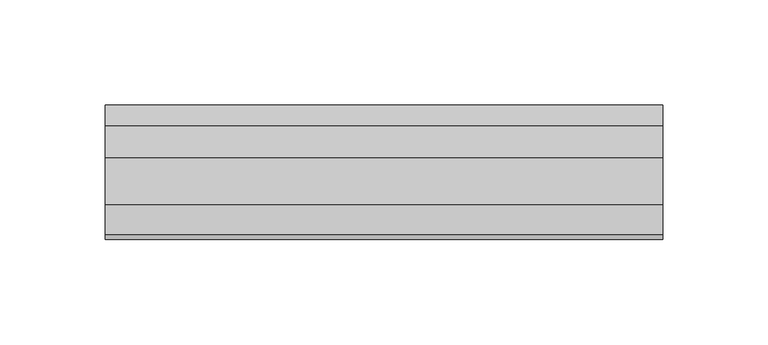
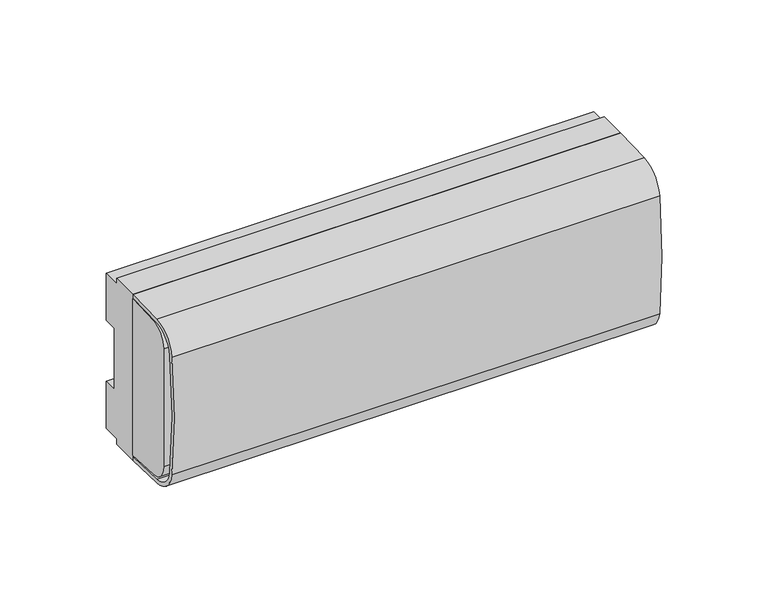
"""IFC4 building model written with IfcOpenShell, lengths in millimetres: proxy geometry, USYSTEMS_Контроллер UH-6 230В1 : Контроллер UH-6 230В 2."""

from ifc_helpers import new_model, si_unit, point, frame, frame_2d, origin, place, context, project, spatial, polyline, circle_curve, trimmed, segment, composite_curve, outline, extrude, faceted_brep, source, transform, mapped, element, save


def mechanical_equipment_387b3563(model_context):
    return source(origin(), model_context, "Body", "SolidModel", [
        faceted_brep([(-111.0, -58.0, 30.0), (-111.0, -58.0, 22.0), (-111.0, -54.0, 22.0), (-111.0, -54.0, 23.0), (-111.0, -57.0, 23.0), (-111.0, -57.0, 29.0), (-111.0, -54.0, 29.0), (-111.0, -54.0, 30.0), (-125.0, -58.0, 30.0), (-125.0, -54.0, 30.0), (-125.0, -54.0, 29.0), (-125.0, -57.0, 29.0), (-125.0, -57.0, 23.0), (-125.0, -54.0, 23.0), (-125.0, -54.0, 22.0), (-125.0, -58.0, 22.0), (-121.5, -58.0, 24.0), (-121.5, -58.0, 28.0), (-114.5, -58.0, 28.0), (-114.5, -58.0, 24.0), (-121.5, -57.0, 28.0), (-121.5, -57.0, 24.0), (-114.5, -57.0, 24.0), (-114.5, -57.0, 28.0)], [[[0, 1, 2, 3, 4, 5, 6, 7]], [[8, 9, 10, 11, 12, 13, 14, 15]], [[1, 0, 8, 15], [16, 17, 18, 19]], [[2, 1, 15, 14]], [[3, 2, 14, 13]], [[4, 3, 13, 12]], [[5, 4, 12, 11], [20, 21, 22, 23]], [[6, 5, 11, 10]], [[7, 6, 10, 9]], [[0, 7, 9, 8]], [[20, 17, 16, 21]], [[17, 20, 23, 18]], [[18, 23, 22, 19]], [[21, 16, 19, 22]]]),
        extrude(outline(composite_curve([segment(polyline([(-54.0, -33.9905287), (-54.0, 33.9905287)]), True, "CONTINUOUS"), segment(trimmed(circle_curve(frame_2d((-44.0, 33.9905287)), 10.0), [point((-54.0, 33.9905287))], [point((-44.5233596, 43.9768241))], False, "CARTESIAN"), True, "CONTINUOUS"), segment(polyline([(-44.5233596, 43.9768241), (-25.0, 45.0), (-25.0, -45.0), (-44.5233596, -43.9768241)]), True, "CONTINUOUS"), segment(trimmed(circle_curve(frame_2d((-44.0, -33.9905287)), 10.0), [point((-44.5233596, -43.9768241))], [point((-54.0, -33.9905287))], False, "CARTESIAN"), True, "CONTINUOUS")], self_intersect=False)), frame((-132.5, 0.0, 0.0), z_axis=(1.0, 0.0, 0.0), x_axis=(0.0, 1.0, 0.0)), (0.0, 0.0, 1.0), 29.0),
        extrude(outline(polyline([(-7.5, 17.5), (-7.5, -17.5), (0.0, -17.5), (0.0, -44.5), (-10.0, -44.5), (-10.0, -47.75), (-25.0, -47.75), (-25.0, 47.75), (-10.0, 47.75), (-10.0, 44.5), (0.0, 44.5), (0.0, 17.5), (-7.5, 17.5)])), frame((-132.5, 0.0, 0.0), z_axis=(1.0, 0.0, 0.0), x_axis=(0.0, 1.0, 0.0)), (0.0, 0.0, 1.0), 265.0),
        extrude(outline(composite_curve([segment(polyline([(-52.0, -34.0953443), (-52.0, 34.0953443)]), True, "CONTINUOUS"), segment(trimmed(circle_curve(frame_2d((-42.0, 34.0953443)), 10.0), [point((-52.0, 34.0953443))], [point((-42.5233596, 44.0816396))], False, "CARTESIAN"), True, "CONTINUOUS"), segment(polyline([(-42.5233596, 44.0816396), (-25.0, 45.0), (-25.0, -45.0), (-42.5233596, -44.0816396)]), True, "CONTINUOUS"), segment(trimmed(circle_curve(frame_2d((-42.0, -34.0953443)), 10.0), [point((-42.5233596, -44.0816396))], [point((-52.0, -34.0953443))], False, "CARTESIAN"), True, "CONTINUOUS")], self_intersect=False)), frame((117.5, 0.0, 0.0), z_axis=(1.0, 0.0, 0.0), x_axis=(0.0, 1.0, 0.0)), (0.0, 0.0, 1.0), 15.0),
        extrude(outline(composite_curve([segment(polyline([(-47.5205443, 46.9635653), (-25.0, 47.75), (-25.0, 45.7487809), (-47.4507453, 44.9647836)]), True, "CONTINUOUS"), segment(trimmed(circle_curve(frame_2d((-46.9970518, 31.9727029)), 13.0), [point((-47.4507453, 44.9647836))], [point((-59.8954146, 33.5951205))], True, "CARTESIAN"), True, "CONTINUOUS"), segment(trimmed(circle_curve(frame_2d((207.1887394, 0.0)), 269.1887394), [point((-59.8954146, 33.5951205))], [point((-59.8954146, -33.5951205))], True, "CARTESIAN"), True, "CONTINUOUS"), segment(trimmed(circle_curve(frame_2d((-46.9970518, -31.9727029)), 13.0), [point((-59.8954146, -33.5951205))], [point((-47.4507453, -44.9647836))], True, "CARTESIAN"), True, "CONTINUOUS"), segment(polyline([(-47.4507453, -44.9647836), (-25.0, -45.7487809), (-25.0, -47.75), (-47.5205443, -46.9635653)]), True, "CONTINUOUS"), segment(trimmed(circle_curve(frame_2d((-46.9970518, -31.9727029)), 15.0), [point((-47.5205443, -46.9635653))], [point((-61.8797781, -33.8447232))], False, "CARTESIAN"), True, "CONTINUOUS"), segment(trimmed(circle_curve(frame_2d((207.1887394, 0.0)), 271.1887394), [point((-61.8797781, -33.8447232))], [point((-61.8797781, 33.8447232))], False, "CARTESIAN"), True, "CONTINUOUS"), segment(trimmed(circle_curve(frame_2d((-46.9970518, 31.9727029)), 15.0), [point((-61.8797781, 33.8447232))], [point((-47.5205443, 46.9635653))], False, "CARTESIAN"), True, "CONTINUOUS")], self_intersect=False)), frame((-132.5, 0.0, 0.0), z_axis=(1.0, 0.0, 0.0), x_axis=(0.0, 1.0, 0.0)), (0.0, 0.0, 1.0), 265.0),
        extrude(outline(composite_curve([segment(polyline([(-25.0, 45.0), (-25.0, -45.0), (-42.5233596, -44.0816396)]), True, "CONTINUOUS"), segment(trimmed(circle_curve(frame_2d((-42.0, -34.0953443)), 10.0), [point((-42.5233596, -44.0816396))], [point((-52.0, -34.0953443))], False, "CARTESIAN"), True, "CONTINUOUS"), segment(polyline([(-52.0, -34.0953443), (-52.0, 34.0953443)]), True, "CONTINUOUS"), segment(trimmed(circle_curve(frame_2d((-42.0, 34.0953443)), 10.0), [point((-52.0, 34.0953443))], [point((-42.5233596, 44.0816396))], False, "CARTESIAN"), True, "CONTINUOUS"), segment(polyline([(-42.5233596, 44.0816396), (-25.0, 45.0)]), True, "CONTINUOUS")], self_intersect=False)), frame((-32.5, 0.0, 0.0), z_axis=(1.0, 0.0, 0.0), x_axis=(0.0, 1.0, 0.0)), (0.0, 0.0, 1.0), 25.0),
        extrude(outline(composite_curve([segment(polyline([(-25.0, 45.0), (-25.0, -45.0), (-42.5233596, -44.0816396)]), True, "CONTINUOUS"), segment(trimmed(circle_curve(frame_2d((-42.0, -34.0953443)), 10.0), [point((-42.5233596, -44.0816396))], [point((-52.0, -34.0953443))], False, "CARTESIAN"), True, "CONTINUOUS"), segment(polyline([(-52.0, -34.0953443), (-52.0, 34.0953443)]), True, "CONTINUOUS"), segment(trimmed(circle_curve(frame_2d((-42.0, 34.0953443)), 10.0), [point((-52.0, 34.0953443))], [point((-42.5233596, 44.0816396))], False, "CARTESIAN"), True, "CONTINUOUS"), segment(polyline([(-42.5233596, 44.0816396), (-25.0, 45.0)]), True, "CONTINUOUS")], self_intersect=False)), frame((-7.5, 0.0, 0.0), z_axis=(1.0, 0.0, 0.0), x_axis=(0.0, 1.0, 0.0)), (0.0, 0.0, 1.0), 25.0),
        extrude(outline(composite_curve([segment(polyline([(-25.0, 45.0), (-25.0, -45.0), (-42.5233596, -44.0816396)]), True, "CONTINUOUS"), segment(trimmed(circle_curve(frame_2d((-42.0, -34.0953443)), 10.0), [point((-42.5233596, -44.0816396))], [point((-52.0, -34.0953443))], False, "CARTESIAN"), True, "CONTINUOUS"), segment(polyline([(-52.0, -34.0953443), (-52.0, 34.0953443)]), True, "CONTINUOUS"), segment(trimmed(circle_curve(frame_2d((-42.0, 34.0953443)), 10.0), [point((-52.0, 34.0953443))], [point((-42.5233596, 44.0816396))], False, "CARTESIAN"), True, "CONTINUOUS"), segment(polyline([(-42.5233596, 44.0816396), (-25.0, 45.0)]), True, "CONTINUOUS")], self_intersect=False)), frame((-57.5, 0.0, 0.0), z_axis=(1.0, 0.0, 0.0), x_axis=(0.0, 1.0, 0.0)), (0.0, 0.0, 1.0), 25.0),
        extrude(outline(composite_curve([segment(polyline([(-25.0, 45.0), (-25.0, -45.0), (-42.5233596, -44.0816396)]), True, "CONTINUOUS"), segment(trimmed(circle_curve(frame_2d((-42.0, -34.0953443)), 10.0), [point((-42.5233596, -44.0816396))], [point((-52.0, -34.0953443))], False, "CARTESIAN"), True, "CONTINUOUS"), segment(polyline([(-52.0, -34.0953443), (-52.0, 34.0953443)]), True, "CONTINUOUS"), segment(trimmed(circle_curve(frame_2d((-42.0, 34.0953443)), 10.0), [point((-52.0, 34.0953443))], [point((-42.5233596, 44.0816396))], False, "CARTESIAN"), True, "CONTINUOUS"), segment(polyline([(-42.5233596, 44.0816396), (-25.0, 45.0)]), True, "CONTINUOUS")], self_intersect=False)), frame((42.5, 0.0, 0.0), z_axis=(1.0, 0.0, 0.0), x_axis=(0.0, 1.0, 0.0)), (0.0, 0.0, 1.0), 25.0),
        extrude(outline(composite_curve([segment(polyline([(-25.0, 45.0), (-25.0, -45.0), (-42.5233596, -44.0816396)]), True, "CONTINUOUS"), segment(trimmed(circle_curve(frame_2d((-42.0, -34.0953443)), 10.0), [point((-42.5233596, -44.0816396))], [point((-52.0, -34.0953443))], False, "CARTESIAN"), True, "CONTINUOUS"), segment(polyline([(-52.0, -34.0953443), (-52.0, 34.0953443)]), True, "CONTINUOUS"), segment(trimmed(circle_curve(frame_2d((-42.0, 34.0953443)), 10.0), [point((-52.0, 34.0953443))], [point((-42.5233596, 44.0816396))], False, "CARTESIAN"), True, "CONTINUOUS"), segment(polyline([(-42.5233596, 44.0816396), (-25.0, 45.0)]), True, "CONTINUOUS")], self_intersect=False)), frame((17.5, 0.0, 0.0), z_axis=(1.0, 0.0, 0.0), x_axis=(0.0, 1.0, 0.0)), (0.0, 0.0, 1.0), 25.0),
        extrude(outline(composite_curve([segment(polyline([(-25.0, 45.0), (-25.0, -45.0), (-42.5233596, -44.0816396)]), True, "CONTINUOUS"), segment(trimmed(circle_curve(frame_2d((-42.0, -34.0953443)), 10.0), [point((-42.5233596, -44.0816396))], [point((-52.0, -34.0953443))], False, "CARTESIAN"), True, "CONTINUOUS"), segment(polyline([(-52.0, -34.0953443), (-52.0, 34.0953443)]), True, "CONTINUOUS"), segment(trimmed(circle_curve(frame_2d((-42.0, 34.0953443)), 10.0), [point((-52.0, 34.0953443))], [point((-42.5233596, 44.0816396))], False, "CARTESIAN"), True, "CONTINUOUS"), segment(polyline([(-42.5233596, 44.0816396), (-25.0, 45.0)]), True, "CONTINUOUS")], self_intersect=False)), frame((67.5, 0.0, 0.0), z_axis=(1.0, 0.0, 0.0), x_axis=(0.0, 1.0, 0.0)), (0.0, 0.0, 1.0), 25.0),
        extrude(outline(composite_curve([segment(polyline([(-25.0, 45.0), (-25.0, -45.0), (-42.5233596, -44.0816396)]), True, "CONTINUOUS"), segment(trimmed(circle_curve(frame_2d((-42.0, -34.0953443)), 10.0), [point((-42.5233596, -44.0816396))], [point((-52.0, -34.0953443))], False, "CARTESIAN"), True, "CONTINUOUS"), segment(polyline([(-52.0, -34.0953443), (-52.0, 34.0953443)]), True, "CONTINUOUS"), segment(trimmed(circle_curve(frame_2d((-42.0, 34.0953443)), 10.0), [point((-52.0, 34.0953443))], [point((-42.5233596, 44.0816396))], False, "CARTESIAN"), True, "CONTINUOUS"), segment(polyline([(-42.5233596, 44.0816396), (-25.0, 45.0)]), True, "CONTINUOUS")], self_intersect=False)), frame((92.5, 0.0, 0.0), z_axis=(1.0, 0.0, 0.0), x_axis=(0.0, 1.0, 0.0)), (0.0, 0.0, 1.0), 25.0),
        extrude(outline(composite_curve([segment(polyline([(-25.0, 45.0), (-25.0, -45.0), (-42.5233596, -44.0816396)]), True, "CONTINUOUS"), segment(trimmed(circle_curve(frame_2d((-42.0, -34.0953443)), 10.0), [point((-42.5233596, -44.0816396))], [point((-52.0, -34.0953443))], False, "CARTESIAN"), True, "CONTINUOUS"), segment(polyline([(-52.0, -34.0953443), (-52.0, 34.0953443)]), True, "CONTINUOUS"), segment(trimmed(circle_curve(frame_2d((-42.0, 34.0953443)), 10.0), [point((-52.0, 34.0953443))], [point((-42.5233596, 44.0816396))], False, "CARTESIAN"), True, "CONTINUOUS"), segment(polyline([(-42.5233596, 44.0816396), (-25.0, 45.0)]), True, "CONTINUOUS")], self_intersect=False)), frame((-103.5, 0.0, 0.0), z_axis=(1.0, 0.0, 0.0), x_axis=(0.0, 1.0, 0.0)), (0.0, 0.0, 1.0), 46.0),
    ])


if __name__ == "__main__":
    model = new_model("IFC4")
    model_context = context("Model", 3, world=origin())
    ifc_project = project(units=[si_unit("LENGTHUNIT", "METRE", prefix="MILLI")], contexts=[model_context])
    site = spatial("IfcSite", under=ifc_project)
    building = spatial("IfcBuilding", under=site)
    placement = place(None, origin())
    mechanical_equipment_shape = mechanical_equipment_387b3563(model_context)
    element("IfcBuildingElementProxy", 1, Name="USYSTEMS_Контроллер UH-6 230В1 : Контроллер UH-6 230В 2", ObjectType="USYSTEMS_Контроллер UH-6 230В1 : Контроллер UH-6 230В 2", at=placement, inside=building, context=model_context, shape_type="MappedRepresentation", body=[
        mapped(mechanical_equipment_shape, transform((0.0, 0.0, 0.0), x_axis=(1.0, 0.0, 0.0), y_axis=(0.0, 1.0, 0.0), z_axis=(0.0, 0.0, 1.0))),
    ])
    save(model, "model.ifc")
